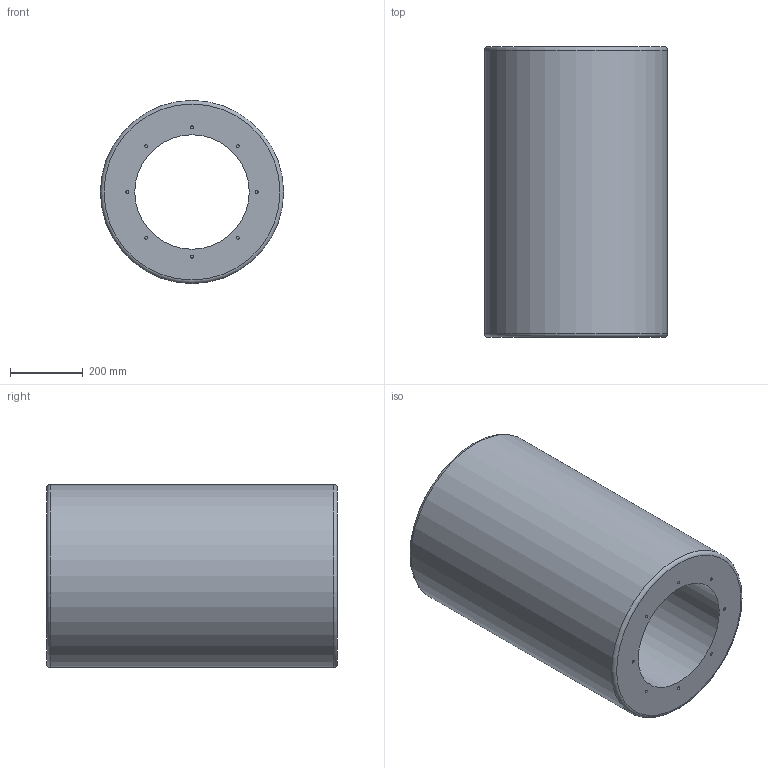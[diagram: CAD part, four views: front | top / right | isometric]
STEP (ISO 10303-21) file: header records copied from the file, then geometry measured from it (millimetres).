
FILE_DESCRIPTION(/* description */ (''),/* implementation_level */ '2;1');
FILE_NAME(/* name */ 'Z:\Output\RSD_315-800-08744-002.stp',/* time_stamp */ '2017-09-20T12:04:00+02:00',/* author */ ('Engineering1'),/* organization */ (''),/* preprocessor_version */ 'ST-DEVELOPER v16.5',/* originating_system */ 'Autodesk Inventor 2017',/* authorisation */ '');
FILE_SCHEMA (('AUTOMOTIVE_DESIGN { 1 0 10303 214 3 1 1 }'));
Length unit declared in the file: millimetre
Products named in the file (1): RSD-1
Bounding box: 504 x 800 x 504 mm (x, y, z)
Volume: 97182655.1 mm3; surface area: 2291857.2 mm2
Topology: 1 solids, 1 shells, 38 faces, 58 edges, 38 vertices
Faces by surface type: cylinder 18, plane 18, torus 2
Full cylindrical faces by diameter (mm): 8 x16, 315 x1, 504 x1
Entity records: 806 total; most frequent: DIRECTION 154, CARTESIAN_POINT 115, AXIS2_PLACEMENT_3D 77, EDGE_LOOP 76, ORIENTED_EDGE 76, FACE_BOUND 38, FACE_OUTER_BOUND 38, CIRCLE 38
